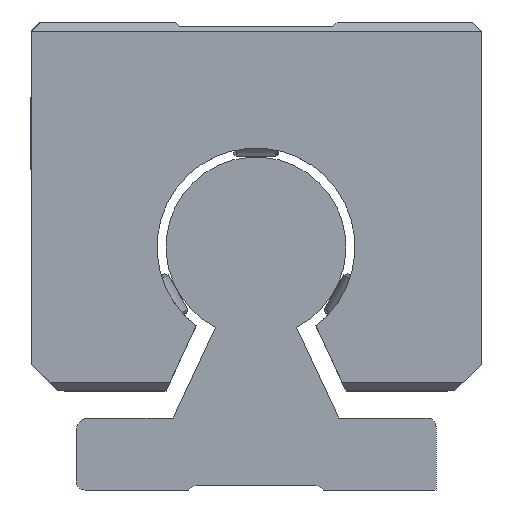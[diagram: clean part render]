
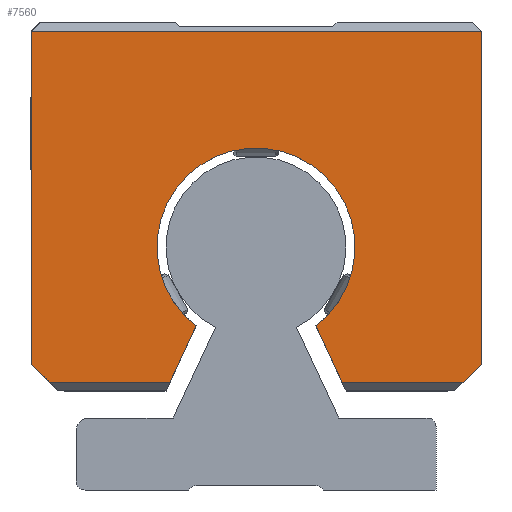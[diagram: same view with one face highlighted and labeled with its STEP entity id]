
A CAD part, left-side view. The second image highlights one B-rep face of the part: STEP entity #7560.
In plain terms, the highlighted planar face has unit normal (-1, 0, 0).
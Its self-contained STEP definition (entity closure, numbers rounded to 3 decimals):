
#6132=CARTESIAN_POINT('',(247.003,-25.,51.));
#6133=VERTEX_POINT('',#6132);
#6142=CARTESIAN_POINT('',(247.003,-25.,14.));
#6143=VERTEX_POINT('',#6142);
#6144=CARTESIAN_POINT('',(247.003,-25.,51.));
#6145=DIRECTION('',(0.0,0.0,-1.0));
#6146=VECTOR('',#6145,37.);
#6147=LINE('',#6144,#6146);
#6148=EDGE_CURVE('',#6133,#6143,#6147,.T.);
#6363=CARTESIAN_POINT('',(247.003,-6.632,18.224));
#6364=VERTEX_POINT('',#6363);
#6371=CARTESIAN_POINT('',(247.003,6.632,18.224));
#6372=VERTEX_POINT('',#6371);
#6373=CARTESIAN_POINT('',(247.003,0.,27.));
#6374=DIRECTION('',(-1.0,0.0,0.0));
#6375=DIRECTION('',(0.0,-1.0,0.0));
#6376=AXIS2_PLACEMENT_3D('',#6373,#6374,#6375);
#6377=CIRCLE('',#6376,11.0);
#6378=EDGE_CURVE('',#6364,#6372,#6377,.T.);
#7188=CARTESIAN_POINT('',(247.003,25.,51.));
#7189=VERTEX_POINT('',#7188);
#7196=CARTESIAN_POINT('',(247.003,25.,51.));
#7197=DIRECTION('',(0.0,-1.0,0.0));
#7198=VECTOR('',#7197,50.0);
#7199=LINE('',#7196,#7198);
#7200=EDGE_CURVE('',#7189,#6133,#7199,.T.);
#7210=CARTESIAN_POINT('',(247.003,23.,12.));
#7211=VERTEX_POINT('',#7210);
#7228=CARTESIAN_POINT('',(247.003,9.534,12.));
#7229=VERTEX_POINT('',#7228);
#7236=CARTESIAN_POINT('',(247.003,9.534,12.));
#7237=DIRECTION('',(0.0,1.0,0.0));
#7238=VECTOR('',#7237,13.466);
#7239=LINE('',#7236,#7238);
#7240=EDGE_CURVE('',#7229,#7211,#7239,.T.);
#7299=CARTESIAN_POINT('',(247.003,25.,14.));
#7300=VERTEX_POINT('',#7299);
#7301=CARTESIAN_POINT('',(247.003,23.,12.));
#7302=DIRECTION('',(0.0,0.707,0.707));
#7303=VECTOR('',#7302,2.828);
#7304=LINE('',#7301,#7303);
#7305=EDGE_CURVE('',#7211,#7300,#7304,.T.);
#7486=CARTESIAN_POINT('',(247.003,-23.,12.));
#7487=VERTEX_POINT('',#7486);
#7488=CARTESIAN_POINT('',(247.003,-25.,14.));
#7489=DIRECTION('',(0.0,0.707,-0.707));
#7490=VECTOR('',#7489,2.828);
#7491=LINE('',#7488,#7490);
#7492=EDGE_CURVE('',#6143,#7487,#7491,.T.);
#7510=CARTESIAN_POINT('',(247.003,-9.534,12.));
#7511=VERTEX_POINT('',#7510);
#7512=CARTESIAN_POINT('',(247.003,-23.,12.));
#7513=DIRECTION('',(0.0,1.0,0.0));
#7514=VECTOR('',#7513,13.466);
#7515=LINE('',#7512,#7514);
#7516=EDGE_CURVE('',#7487,#7511,#7515,.T.);
#7528=CARTESIAN_POINT('',(247.003,-17.,51.75));
#7529=DIRECTION('',(1.0,0.0,0.0));
#7530=DIRECTION('',(0.0,0.0,-1.0));
#7531=AXIS2_PLACEMENT_3D('',#7528,#7529,#7530);
#7532=PLANE('',#7531);
#7533=ORIENTED_EDGE('',*,*,#7240,.F.);
#7534=CARTESIAN_POINT('',(247.003,6.632,18.224));
#7535=DIRECTION('',(0.0,0.423,-0.906));
#7536=VECTOR('',#7535,6.867);
#7537=LINE('',#7534,#7536);
#7538=EDGE_CURVE('',#6372,#7229,#7537,.T.);
#7539=ORIENTED_EDGE('',*,*,#7538,.F.);
#7540=ORIENTED_EDGE('',*,*,#6378,.F.);
#7541=CARTESIAN_POINT('',(247.003,-9.534,12.));
#7542=DIRECTION('',(0.0,0.423,0.906));
#7543=VECTOR('',#7542,6.867);
#7544=LINE('',#7541,#7543);
#7545=EDGE_CURVE('',#7511,#6364,#7544,.T.);
#7546=ORIENTED_EDGE('',*,*,#7545,.F.);
#7547=ORIENTED_EDGE('',*,*,#7516,.F.);
#7548=ORIENTED_EDGE('',*,*,#7492,.F.);
#7549=ORIENTED_EDGE('',*,*,#6148,.F.);
#7550=ORIENTED_EDGE('',*,*,#7200,.F.);
#7551=CARTESIAN_POINT('',(247.003,25.,14.));
#7552=DIRECTION('',(0.0,0.0,1.0));
#7553=VECTOR('',#7552,37.);
#7554=LINE('',#7551,#7553);
#7555=EDGE_CURVE('',#7300,#7189,#7554,.T.);
#7556=ORIENTED_EDGE('',*,*,#7555,.F.);
#7557=ORIENTED_EDGE('',*,*,#7305,.F.);
#7558=EDGE_LOOP('',(#7533,#7539,#7540,#7546,#7547,#7548,#7549,#7550,#7556,#7557));
#7559=FACE_OUTER_BOUND('',#7558,.T.);
#7560=ADVANCED_FACE('',(#7559),#7532,.F.);
